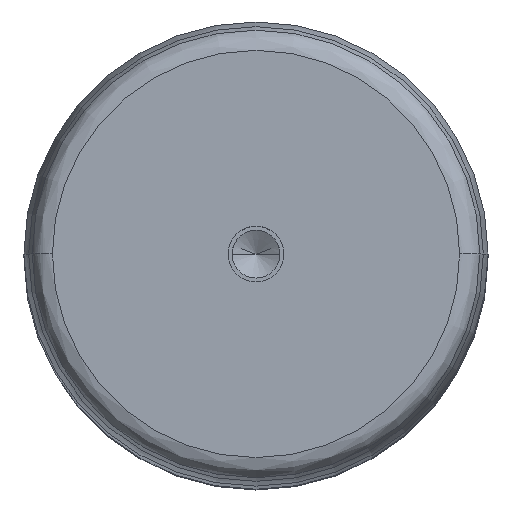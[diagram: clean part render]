
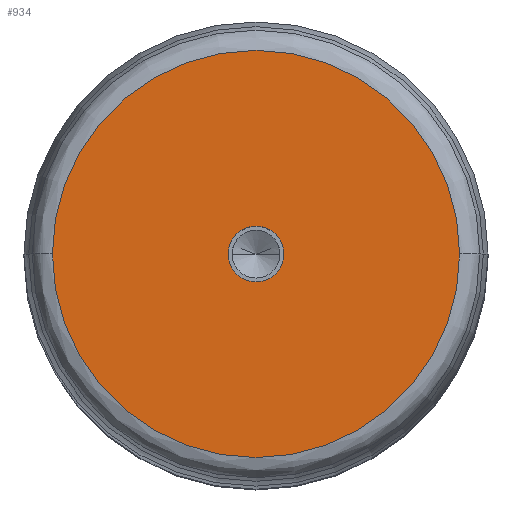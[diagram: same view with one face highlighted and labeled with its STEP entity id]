
A CAD part, top view. The second image highlights one B-rep face of the part: STEP entity #934.
In plain terms, the highlighted planar face has unit normal (0, 0, 1).
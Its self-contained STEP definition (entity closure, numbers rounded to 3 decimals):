
#149=VERTEX_POINT(' ',#150);
#150=CARTESIAN_POINT('',(43.868,0.,500.));
#151=VERTEX_POINT(' ',#152);
#152=CARTESIAN_POINT('',(-43.868,0.,500.));
#153=VERTEX_POINT(' ',#154);
#154=CARTESIAN_POINT('',(-6.,0.,500.));
#155=VERTEX_POINT(' ',#156);
#156=CARTESIAN_POINT('',(6.,0.,500.));
#469=CIRCLE('',#470,43.868);
#470=AXIS2_PLACEMENT_3D('',#471,#472,#473);
#471=CARTESIAN_POINT('',(0.,0.,500.));
#472=DIRECTION('',(0.,0.,1.));
#473=DIRECTION('',(0.,1.,0.));
#474=EDGE_CURVE(' ',#149,#151,#469,.F.);
#481=CIRCLE('',#482,43.868);
#482=AXIS2_PLACEMENT_3D('',#483,#484,#485);
#483=CARTESIAN_POINT('',(0.,0.,500.));
#484=DIRECTION('',(0.,0.,1.));
#485=DIRECTION('',(0.,-1.,0.));
#486=EDGE_CURVE(' ',#151,#149,#481,.F.);
#487=CIRCLE('',#488,6.);
#488=AXIS2_PLACEMENT_3D('',#489,#490,#491);
#489=CARTESIAN_POINT('',(0.,0.,500.));
#490=DIRECTION('',(0.,0.,-1.));
#491=DIRECTION('',(0.,-1.,0.));
#492=EDGE_CURVE(' ',#155,#153,#487,.F.);
#493=CIRCLE('',#494,6.);
#494=AXIS2_PLACEMENT_3D('',#495,#496,#497);
#495=CARTESIAN_POINT('',(0.,0.,500.));
#496=DIRECTION('',(0.,0.,-1.));
#497=DIRECTION('',(0.,1.,0.));
#498=EDGE_CURVE(' ',#153,#155,#493,.F.);
#921=ORIENTED_EDGE('',*,*,#474,.F.);
#922=ORIENTED_EDGE('',*,*,#486,.F.);
#923=EDGE_LOOP('',(#921,#922));
#924=FACE_OUTER_BOUND('',#923,.T.);
#925=ORIENTED_EDGE('',*,*,#492,.F.);
#926=ORIENTED_EDGE('',*,*,#498,.F.);
#927=EDGE_LOOP('',(#925,#926));
#928=FACE_BOUND('',#927,.T.);
#929=PLANE('',#930);
#930=AXIS2_PLACEMENT_3D('',#931,#932,#933);
#931=CARTESIAN_POINT('',(0.,0.,500.));
#932=DIRECTION('',(0.,0.,1.));
#933=DIRECTION('',(0.,-1.,0.));
#934=ADVANCED_FACE('',(#924,#928),#929,.T.);
